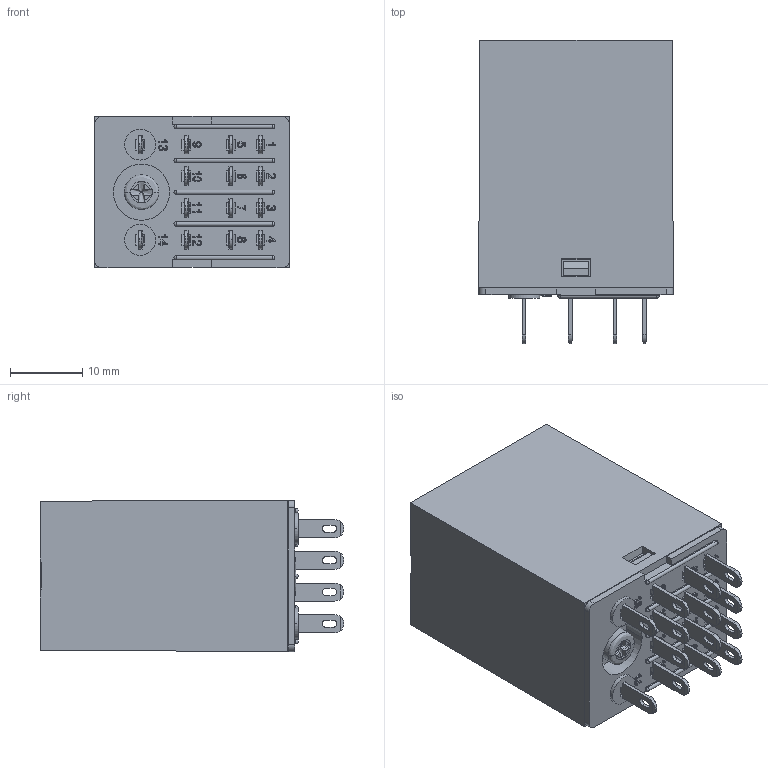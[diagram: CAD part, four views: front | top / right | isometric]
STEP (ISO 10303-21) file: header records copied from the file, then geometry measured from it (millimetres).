
FILE_DESCRIPTION (( 'STEP AP203' ), '1' );
FILE_NAME ('RKM4C 俋倛.STEP', '2023-01-14T08:09:18', ( '' ), ( '' ), 'SwSTEP 2.0', 'SolidWorks 2018', '' );
FILE_SCHEMA (( 'CONFIG_CONTROL_DESIGN' ));
Length unit declared in the file: millimetre
Products named in the file (1): RKM4C 俋倛
Bounding box: 27 x 42.15 x 21.05 mm (x, y, z)
Volume: 19697 mm3; surface area: 5760.9 mm2
Topology: 1 solids, 1 shells, 980 faces, 2689 edges, 1756 vertices
Faces by surface type: plane 669, cylinder 159, bspline 130, sphere 10, cone 8, torus 4
Entity records: 37701 total; most frequent: CARTESIAN_POINT 13500, ORIENTED_EDGE 5338, DIRECTION 4383, EDGE_CURVE 2669, LINE 1991, VECTOR 1991, VERTEX_POINT 1746, AXIS2_PLACEMENT_3D 1196
